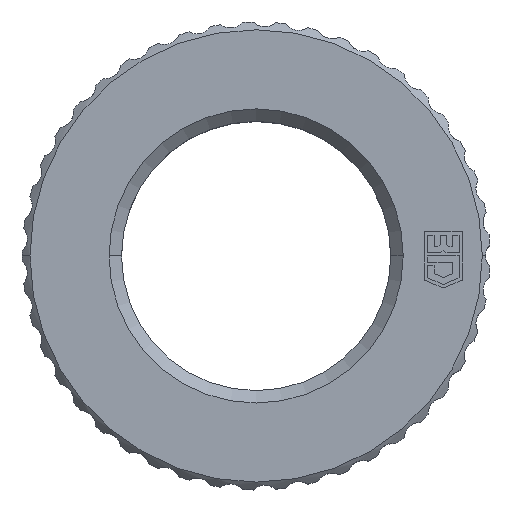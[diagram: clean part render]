
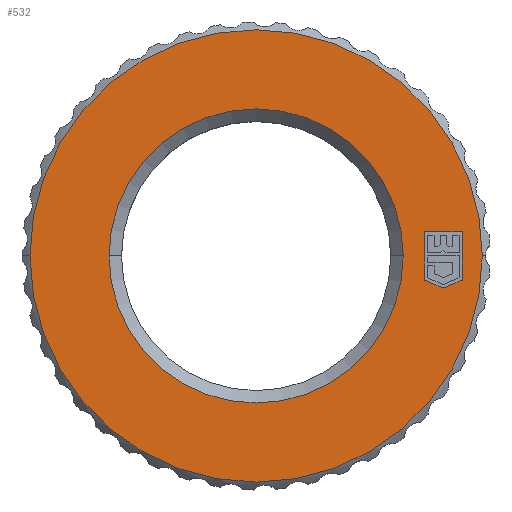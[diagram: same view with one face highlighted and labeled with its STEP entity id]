
A CAD part, top view. The second image highlights one B-rep face of the part: STEP entity #532.
In plain terms, the highlighted planar face has unit normal (0, 0, 1).
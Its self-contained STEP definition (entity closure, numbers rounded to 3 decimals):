
#72 = EDGE_CURVE ( 'NONE', #110, #111, #1978, .T. ) ;
#110 = VERTEX_POINT ( 'NONE', #2071 ) ;
#111 = VERTEX_POINT ( 'NONE', #2069 ) ;
#532 = ADVANCED_FACE ( 'NONE', ( #2882, #2881, #2880 ), #2879, .F. ) ;
#533 = EDGE_LOOP ( 'NONE', ( #600, #602 ) ) ;
#575 = VERTEX_POINT ( 'NONE', #3055 ) ;
#576 = VERTEX_POINT ( 'NONE', #3054 ) ;
#577 = ORIENTED_EDGE ( 'NONE', *, *, #653, .T. ) ;
#585 = VERTEX_POINT ( 'NONE', #3041 ) ;
#592 = ORIENTED_EDGE ( 'NONE', *, *, #593, .T. ) ;
#593 = EDGE_CURVE ( 'NONE', #585, #645, #3084, .T. ) ;
#598 = ORIENTED_EDGE ( 'NONE', *, *, #599, .T. ) ;
#599 = EDGE_CURVE ( 'NONE', #654, #575, #3075, .T. ) ;
#600 = ORIENTED_EDGE ( 'NONE', *, *, #601, .T. ) ;
#601 = EDGE_CURVE ( 'NONE', #111, #110, #3071, .T. ) ;
#602 = ORIENTED_EDGE ( 'NONE', *, *, #72, .T. ) ;
#603 = EDGE_LOOP ( 'NONE', ( #632, #638 ) ) ;
#618 = EDGE_LOOP ( 'NONE', ( #577, #646, #592, #639, #598 ) ) ;
#624 = EDGE_CURVE ( 'NONE', #669, #672, #3149, .T. ) ;
#632 = ORIENTED_EDGE ( 'NONE', *, *, #671, .T. ) ;
#638 = ORIENTED_EDGE ( 'NONE', *, *, #624, .T. ) ;
#639 = ORIENTED_EDGE ( 'NONE', *, *, #640, .T. ) ;
#640 = EDGE_CURVE ( 'NONE', #645, #654, #3119, .T. ) ;
#645 = VERTEX_POINT ( 'NONE', #3168 ) ;
#646 = ORIENTED_EDGE ( 'NONE', *, *, #655, .T. ) ;
#653 = EDGE_CURVE ( 'NONE', #575, #576, #3159, .T. ) ;
#654 = VERTEX_POINT ( 'NONE', #3155 ) ;
#655 = EDGE_CURVE ( 'NONE', #576, #585, #3154, .T. ) ;
#669 = VERTEX_POINT ( 'NONE', #3182 ) ;
#671 = EDGE_CURVE ( 'NONE', #672, #669, #3246, .T. ) ;
#672 = VERTEX_POINT ( 'NONE', #3242 ) ;
#1974 = DIRECTION ( 'NONE',  ( 1., 0., 0. ) ) ;
#1975 = DIRECTION ( 'NONE',  ( 0., 0., 1. ) ) ;
#1976 = CARTESIAN_POINT ( 'NONE',  ( 0., 0., 0. ) ) ;
#1977 = AXIS2_PLACEMENT_3D ( 'NONE', #1976, #1975, #1974 ) ;
#1978 = CIRCLE ( 'NONE', #1977, 14.5 ) ;
#2069 = CARTESIAN_POINT ( 'NONE',  ( -14.5, 0., 0. ) ) ;
#2071 = CARTESIAN_POINT ( 'NONE',  ( 14.5, 0., 0. ) ) ;
#2875 = DIRECTION ( 'NONE',  ( -1., 0., 0. ) ) ;
#2876 = DIRECTION ( 'NONE',  ( 0., 0., -1. ) ) ;
#2877 = CARTESIAN_POINT ( 'NONE',  ( 0., 0., 0. ) ) ;
#2878 = AXIS2_PLACEMENT_3D ( 'NONE', #2877, #2876, #2875 ) ;
#2879 = PLANE ( 'NONE',  #2878 ) ;
#2880 = FACE_BOUND ( 'NONE', #618, .T. ) ;
#2881 = FACE_BOUND ( 'NONE', #603, .T. ) ;
#2882 = FACE_OUTER_BOUND ( 'NONE', #533, .T. ) ;
#3041 = CARTESIAN_POINT ( 'NONE',  ( 10.785, 1.548, 0. ) ) ;
#3054 = CARTESIAN_POINT ( 'NONE',  ( 10.785, -1.549, 0. ) ) ;
#3055 = CARTESIAN_POINT ( 'NONE',  ( 12., -2.052, 0. ) ) ;
#3067 = DIRECTION ( 'NONE',  ( 1., 0., 0. ) ) ;
#3068 = DIRECTION ( 'NONE',  ( 0., 0., 1. ) ) ;
#3069 = CARTESIAN_POINT ( 'NONE',  ( 0., 0., 0. ) ) ;
#3070 = AXIS2_PLACEMENT_3D ( 'NONE', #3069, #3068, #3067 ) ;
#3071 = CIRCLE ( 'NONE', #3070, 14.5 ) ;
#3072 = DIRECTION ( 'NONE',  ( -0.924, -0.383, 0. ) ) ;
#3073 = VECTOR ( 'NONE', #3072, 1000. ) ;
#3074 = CARTESIAN_POINT ( 'NONE',  ( 12., -2.052, 0. ) ) ;
#3075 = LINE ( 'NONE', #3074, #3073 ) ;
#3081 = DIRECTION ( 'NONE',  ( 1., 0., 0. ) ) ;
#3082 = VECTOR ( 'NONE', #3081, 1000. ) ;
#3083 = CARTESIAN_POINT ( 'NONE',  ( 10.785, 1.548, 0. ) ) ;
#3084 = LINE ( 'NONE', #3083, #3082 ) ;
#3119 = LINE ( 'NONE', #3181, #3180 ) ;
#3145 = DIRECTION ( 'NONE',  ( -1., 0., 0. ) ) ;
#3146 = DIRECTION ( 'NONE',  ( 0., 0., -1. ) ) ;
#3147 = CARTESIAN_POINT ( 'NONE',  ( 0., 0., 0. ) ) ;
#3148 = AXIS2_PLACEMENT_3D ( 'NONE', #3147, #3146, #3145 ) ;
#3149 = CIRCLE ( 'NONE', #3148, 9.43 ) ;
#3151 = DIRECTION ( 'NONE',  ( 0., 1., 0. ) ) ;
#3152 = VECTOR ( 'NONE', #3151, 1000. ) ;
#3153 = CARTESIAN_POINT ( 'NONE',  ( 10.785, -1.549, 0. ) ) ;
#3154 = LINE ( 'NONE', #3153, #3152 ) ;
#3155 = CARTESIAN_POINT ( 'NONE',  ( 13.215, -1.549, 0. ) ) ;
#3156 = DIRECTION ( 'NONE',  ( -0.924, 0.383, 0. ) ) ;
#3157 = VECTOR ( 'NONE', #3156, 1000. ) ;
#3158 = CARTESIAN_POINT ( 'NONE',  ( 12., -2.052, 0. ) ) ;
#3159 = LINE ( 'NONE', #3158, #3157 ) ;
#3168 = CARTESIAN_POINT ( 'NONE',  ( 13.215, 1.548, 0. ) ) ;
#3179 = DIRECTION ( 'NONE',  ( 0., -1., 0. ) ) ;
#3180 = VECTOR ( 'NONE', #3179, 1000. ) ;
#3181 = CARTESIAN_POINT ( 'NONE',  ( 13.215, 1.548, 0. ) ) ;
#3182 = CARTESIAN_POINT ( 'NONE',  ( -9.43, 0., 0. ) ) ;
#3188 = CARTESIAN_POINT ( 'NONE',  ( 0., 0., 0. ) ) ;
#3242 = CARTESIAN_POINT ( 'NONE',  ( 9.43, 0., 0. ) ) ;
#3243 = DIRECTION ( 'NONE',  ( -1., 0., 0. ) ) ;
#3244 = DIRECTION ( 'NONE',  ( 0., 0., -1. ) ) ;
#3245 = AXIS2_PLACEMENT_3D ( 'NONE', #3188, #3244, #3243 ) ;
#3246 = CIRCLE ( 'NONE', #3245, 9.43 ) ;
